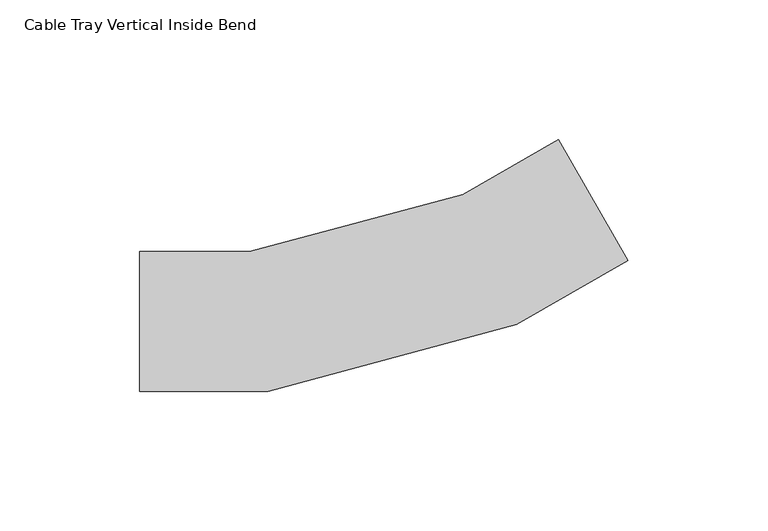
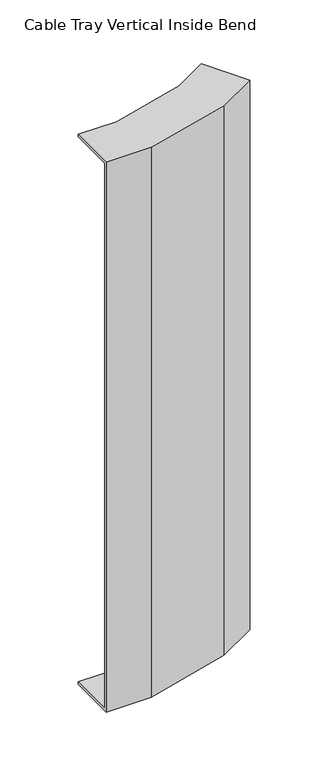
"""IFC4 building model written with IfcOpenShell, lengths in millimetres: cable carrier fitting geometry, Cable Tray Vertical Inside Bend : ELEC_SUB_CT_N2402."""

from ifc_helpers import new_model, si_unit, origin, place, context, project, spatial, faceted_brep, source, transform, mapped, element, save


def cable_tray_vertical_inside_bend_f7f475b4(model_context):
    return source(origin(), model_context, "Body", "Brep", [
        faceted_brep([(-87.0834875, 25.0, 300.0), (-87.0834875, 25.0, 297.46), (-87.0834875, -22.46, 297.46), (-87.0834875, -22.46, -297.46), (-87.0834875, 25.0, -297.46), (-87.0834875, 25.0, -300.0), (-87.0834875, -25.0, -300.0), (-87.0834875, -25.0, 300.0), (62.9165125, 65.1923789, 300.0), (87.9165125, 21.8911087, 300.0), (87.9165125, 21.8911087, -300.0), (62.9165125, 65.1923789, -300.0), (62.9165125, 65.1923789, -297.46), (86.6465125, 24.0908132, -297.46), (86.6465125, 24.0908132, 297.46), (62.9165125, 65.1923789, 297.46), (-47.5877383, 25.0, 300.0), (-47.5877383, 25.0, 297.46), (28.7121902, 45.4445042, 297.46), (47.0310665, 1.2188248, 297.46), (-41.3395107, -22.46, 297.46), (-41.3395107, -22.46, -297.46), (47.0310665, 1.2188248, -297.46), (28.7121902, 45.4445042, -297.46), (-47.5877383, 25.0, -297.46), (-47.5877383, 25.0, -300.0), (28.7121902, 45.4445042, -300.0), (48.0114699, -1.1480784, -300.0), (-41.0051134, -25.0, -300.0), (-41.0051134, -25.0, 300.0), (48.0114699, -1.1480784, 300.0), (28.7121902, 45.4445042, 300.0)], [[[0, 1, 2, 3, 4, 5, 6, 7]], [[8, 9, 10, 11, 12, 13, 14, 15]], [[1, 0, 16, 17]], [[2, 1, 17, 18, 15, 14, 19, 20]], [[3, 2, 20, 21]], [[4, 3, 21, 22, 13, 12, 23, 24]], [[5, 4, 24, 25]], [[6, 5, 25, 26, 11, 10, 27, 28]], [[7, 6, 28, 29]], [[0, 7, 29, 30, 9, 8, 31, 16]], [[17, 16, 31, 18]], [[21, 20, 19, 22]], [[25, 24, 23, 26]], [[29, 28, 27, 30]], [[18, 31, 8, 15]], [[22, 19, 14, 13]], [[26, 23, 12, 11]], [[30, 27, 10, 9]]]),
    ])


if __name__ == "__main__":
    model = new_model("IFC4")
    model_context = context("Model", 3, world=origin())
    ifc_project = project(units=[si_unit("LENGTHUNIT", "METRE", prefix="MILLI")], contexts=[model_context])
    site = spatial("IfcSite", under=ifc_project)
    building = spatial("IfcBuilding", under=site)
    placement = place(None, origin())
    cable_tray_vertical_inside_bend_shape = cable_tray_vertical_inside_bend_f7f475b4(model_context)
    element("IfcCableCarrierFitting", 1, ObjectType="Cable Tray Vertical Inside Bend : ELEC_SUB_CT_N2402", at=placement, inside=building, context=model_context, shape_type="MappedRepresentation", body=[
        mapped(cable_tray_vertical_inside_bend_shape, transform((0.0, 0.0, 0.0), x_axis=(1.0, 0.0, 0.0), y_axis=(0.0, 1.0, 0.0), z_axis=(0.0, 0.0, 1.0))),
    ])
    save(model, "model.ifc")
